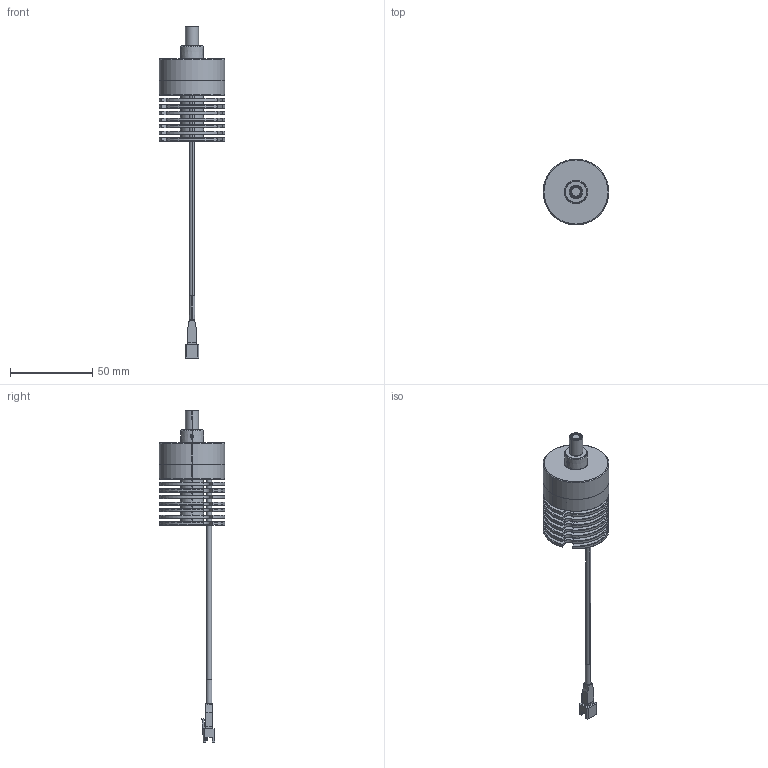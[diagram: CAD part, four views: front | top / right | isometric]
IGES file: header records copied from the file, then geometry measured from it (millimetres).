
Start section: SolidWorks IGES file using analytic representation for surfaces
Global section: file name: C:\Users\88691\Desktop\VST LIGHTING\CO-AXIAL SPOT LIGHT (ｦPｶbﾂI･弡ｽ)\7WﾂI･弡ｽ\VTWL-CSH07-W_R_G_B (VSP-A2)\VSP-A2-2P_Drawing_L1225 - A00100.IGS,1; native system: 5HSolidWorks 2020; preprocessor: SolidWorks 2020; author: 88691; date: 240220.164513; units: millimetre
Bounding box: 40 x 40 x 202.01 mm (x, y, z)
Surface area: 29053.9 mm2 (no closed solid volume)
Topology: 0 solids, 0 shells, 505 faces, 6355 edges, 6355 vertices
Faces by surface type: bspline 281, revolution 224
